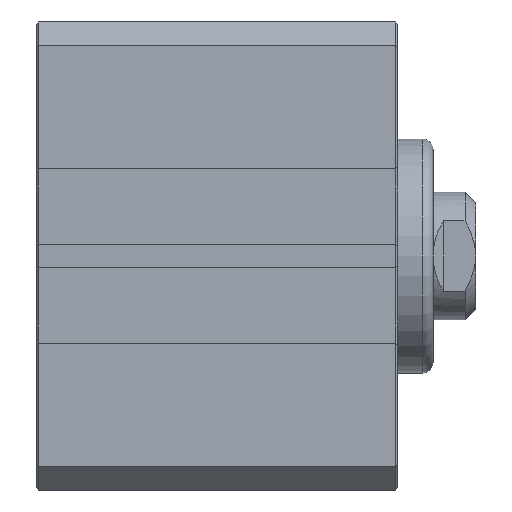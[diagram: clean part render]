
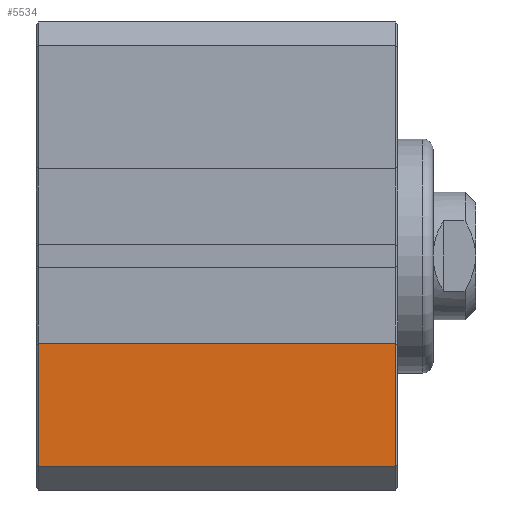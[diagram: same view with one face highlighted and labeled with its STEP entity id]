
A CAD part, left-side view. The second image highlights one B-rep face of the part: STEP entity #5534.
In plain terms, the highlighted planar face has unit normal (-1, 0, 0).
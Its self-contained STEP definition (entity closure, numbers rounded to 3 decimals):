
#353=LINE('',#7691,#735);
#355=LINE('',#7695,#737);
#356=LINE('',#7697,#738);
#357=LINE('',#7699,#739);
#735=VECTOR('',#6517,1000.);
#737=VECTOR('',#6521,1000.);
#738=VECTOR('',#6522,1000.);
#739=VECTOR('',#6523,1000.);
#1255=ORIENTED_EDGE('',*,*,#2197,.T.);
#1256=ORIENTED_EDGE('',*,*,#2199,.T.);
#1257=ORIENTED_EDGE('',*,*,#2200,.F.);
#1258=ORIENTED_EDGE('',*,*,#2201,.T.);
#2197=EDGE_CURVE('',#2670,#2669,#353,.T.);
#2199=EDGE_CURVE('',#2669,#2671,#355,.T.);
#2200=EDGE_CURVE('',#2672,#2671,#356,.T.);
#2201=EDGE_CURVE('',#2672,#2670,#357,.T.);
#2669=VERTEX_POINT('',#7690);
#2670=VERTEX_POINT('',#7692);
#2671=VERTEX_POINT('',#7696);
#2672=VERTEX_POINT('',#7698);
#2946=EDGE_LOOP('',(#1255,#1256,#1257,#1258));
#3276=FACE_BOUND('',#2946,.T.);
#3539=PLANE('',#5853);
#5534=ADVANCED_FACE('',(#3276),#3539,.F.);
#5853=AXIS2_PLACEMENT_3D('',#7694,#6519,#6520);
#6517=DIRECTION('',(0.,-1.,0.));
#6519=DIRECTION('',(1.,0.,0.));
#6520=DIRECTION('',(0.,1.,0.));
#6521=DIRECTION('',(0.,0.,1.));
#6522=DIRECTION('',(0.,-1.,0.));
#6523=DIRECTION('',(0.,0.,-1.));
#7690=CARTESIAN_POINT('',(-22.,0.2,-19.782));
#7691=CARTESIAN_POINT('',(-22.,34.,-19.782));
#7692=CARTESIAN_POINT('',(-22.,33.8,-19.782));
#7694=CARTESIAN_POINT('',(-22.,34.,-19.782));
#7695=CARTESIAN_POINT('',(-22.,0.2,-8.2));
#7696=CARTESIAN_POINT('',(-22.,0.2,-8.2));
#7697=CARTESIAN_POINT('',(-22.,34.,-8.2));
#7698=CARTESIAN_POINT('',(-22.,33.8,-8.2));
#7699=CARTESIAN_POINT('',(-22.,33.8,-19.782));
